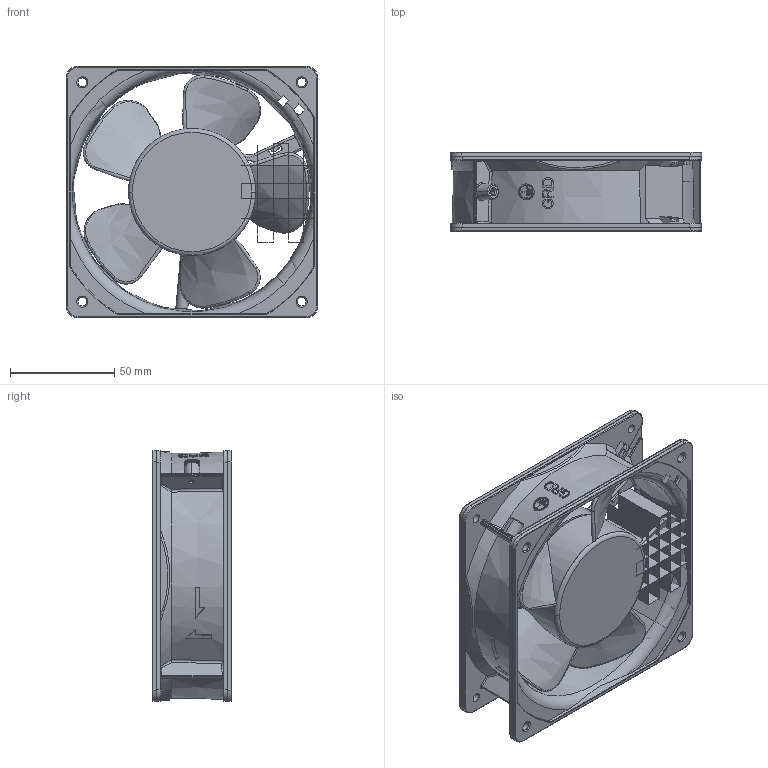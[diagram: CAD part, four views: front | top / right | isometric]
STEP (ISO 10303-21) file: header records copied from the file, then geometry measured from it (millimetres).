
FILE_DESCRIPTION((''),'2;1');
FILE_NAME('YACOOL12038_ASM','2024-12-11T',('Administrator'),(''),'CREO PARAMETRIC BY PTC INC, 2014190','CREO PARAMETRIC BY PTC INC, 2014190','');
FILE_SCHEMA(('CONFIG_CONTROL_DESIGN'));
Length unit declared in the file: inch
Products named in the file (1): YACOOL12038_ASM
Bounding box: 120.34 x 38 x 120.34 mm (x, y, z)
Surface area: 91053.8 mm2 (no closed solid volume)
Topology: 0 solids, 4 shells, 722 faces, 1992 edges, 1279 vertices
Faces by surface type: plane 309, cylinder 167, bspline 115, cone 85, torus 40, extrusion 4, revolution 2
Entity records: 34650 total; most frequent: CARTESIAN_POINT 17944, ORIENTED_EDGE 3912, DIRECTION 2817, EDGE_CURVE 1992, VERTEX_POINT 1279, AXIS2_PLACEMENT_3D 1049, B_SPLINE_CURVE_WITH_KNOTS 837, EDGE_LOOP 767
